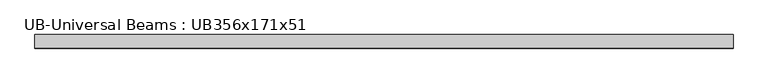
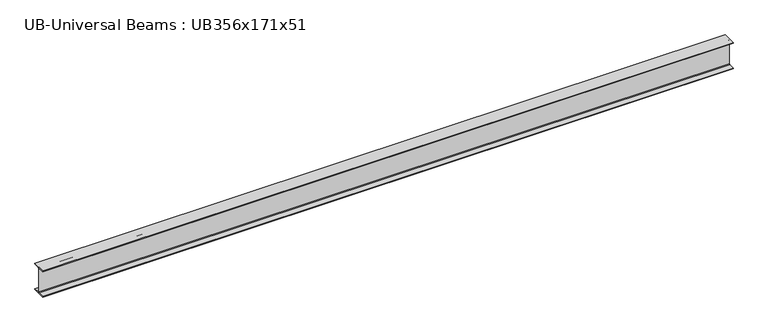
"""IFC4 building model written with IfcOpenShell, lengths in millimetres: beam geometry, UB-Universal Beams : UB356x171x51."""

from ifc_helpers import new_model, si_unit, point, frame, frame_2d, origin, place, context, project, spatial, polyline, circle_curve, trimmed, segment, composite_curve, outline, extrude, source, transform, mapped, element, save


def ub_universal_beams_ub356x171x51_c03c70fb(model_context):
    return source(origin(), model_context, "Body", "SweptSolid", [
        extrude(outline(composite_curve([segment(polyline([(85.75, -166.0), (85.75, -177.5), (-85.75, -177.5), (-85.75, -166.0), (-13.9, -166.0)]), True, "CONTINUOUS"), segment(trimmed(circle_curve(frame_2d((-13.9, -155.8)), 10.2), [point((-13.9, -166.0))], [point((-3.7, -155.8))], True, "CARTESIAN"), True, "CONTINUOUS"), segment(polyline([(-3.7, -155.8), (-3.7, 155.8)]), True, "CONTINUOUS"), segment(trimmed(circle_curve(frame_2d((-13.9, 155.8)), 10.2), [point((-3.7, 155.8))], [point((-13.9, 166.0))], True, "CARTESIAN"), True, "CONTINUOUS"), segment(polyline([(-13.9, 166.0), (-85.75, 166.0), (-85.75, 177.5), (85.75, 177.5), (85.75, 166.0), (13.9, 166.0)]), True, "CONTINUOUS"), segment(trimmed(circle_curve(frame_2d((13.9, 155.8)), 10.2), [point((13.9, 166.0))], [point((3.7, 155.8))], True, "CARTESIAN"), True, "CONTINUOUS"), segment(polyline([(3.7, 155.8), (3.7, -155.8)]), True, "CONTINUOUS"), segment(trimmed(circle_curve(frame_2d((13.9, -155.8)), 10.2), [point((3.7, -155.8))], [point((13.9, -166.0))], True, "CARTESIAN"), True, "CONTINUOUS"), segment(polyline([(13.9, -166.0), (85.75, -166.0)]), True, "CONTINUOUS")], self_intersect=False)), frame((-4406.6, 0.0, 0.0), z_axis=(1.0, 0.0, 0.0), x_axis=(0.0, 1.0, 0.0)), (0.0, 0.0, 1.0), 8811.9),
    ])


if __name__ == "__main__":
    model = new_model("IFC4")
    model_context = context("Model", 3, world=origin())
    ifc_project = project(units=[si_unit("LENGTHUNIT", "METRE", prefix="MILLI")], contexts=[model_context])
    site = spatial("IfcSite", under=ifc_project)
    building = spatial("IfcBuilding", under=site)
    placement = place(None, origin())
    ub_universal_beams_ub356x171x51_shape = ub_universal_beams_ub356x171x51_c03c70fb(model_context)
    element("IfcBeam", 1, ObjectType="UB-Universal Beams : UB356x171x51", at=placement, inside=building, context=model_context, shape_type="MappedRepresentation", body=[
        mapped(ub_universal_beams_ub356x171x51_shape, transform((0.0, 0.0, 0.0), x_axis=(1.0, 0.0, 0.0), y_axis=(0.0, 1.0, 0.0), z_axis=(0.0, 0.0, 1.0))),
    ])
    save(model, "model.ifc")
